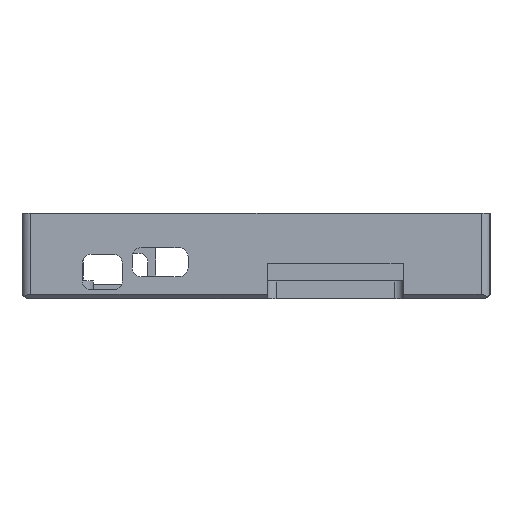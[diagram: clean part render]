
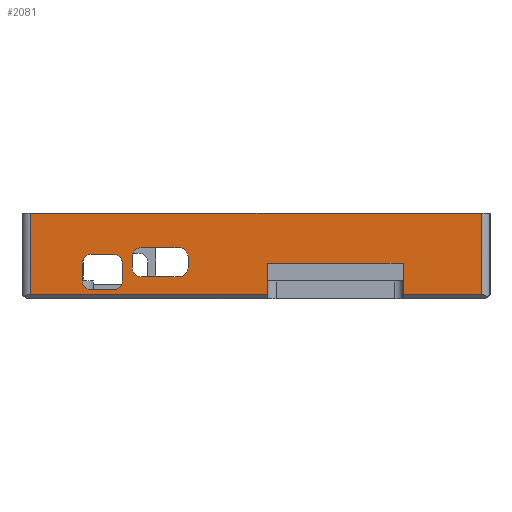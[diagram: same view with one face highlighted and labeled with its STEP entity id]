
A CAD part, left-side view. The second image highlights one B-rep face of the part: STEP entity #2081.
In plain terms, the highlighted planar face has unit normal (-1, 0, 0).
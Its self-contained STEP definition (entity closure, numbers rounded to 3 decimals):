
#633 = VERTEX_POINT('',#634);
#634 = CARTESIAN_POINT('',(-85.,37.,2.));
#640 = EDGE_CURVE('',#633,#641,#643,.T.);
#641 = VERTEX_POINT('',#642);
#642 = CARTESIAN_POINT('',(-85.,32.,2.));
#643 = LINE('',#644,#645);
#644 = CARTESIAN_POINT('',(-85.,39.,2.));
#645 = VECTOR('',#646,1.);
#646 = DIRECTION('',(0.,-1.,0.));
#1386 = VERTEX_POINT('',#1387);
#1387 = CARTESIAN_POINT('',(-85.,50.5,19.2));
#1394 = EDGE_CURVE('',#1386,#1395,#1397,.T.);
#1395 = VERTEX_POINT('',#1396);
#1396 = CARTESIAN_POINT('',(-85.,-50.5,19.2));
#1397 = LINE('',#1398,#1399);
#1398 = CARTESIAN_POINT('',(-85.,52.5,19.2));
#1399 = VECTOR('',#1400,1.);
#1400 = DIRECTION('',(0.,-1.,0.));
#2043 = EDGE_CURVE('',#2044,#641,#2046,.T.);
#2044 = VERTEX_POINT('',#2045);
#2045 = CARTESIAN_POINT('',(-85.,30.,4.));
#2046 = CIRCLE('',#2047,2.);
#2047 = AXIS2_PLACEMENT_3D('',#2048,#2049,#2050);
#2048 = CARTESIAN_POINT('',(-85.,32.,4.));
#2049 = DIRECTION('',(1.,0.,-0.));
#2050 = DIRECTION('',(0.,0.,1.));
#2081 = ADVANCED_FACE('',(#2082,#2139,#2209),#2262,.F.);
#2082 = FACE_BOUND('',#2083,.F.);
#2083 = EDGE_LOOP('',(#2084,#2094,#2100,#2101,#2109,#2117,#2125,#2133));
#2084 = ORIENTED_EDGE('',*,*,#2085,.F.);
#2085 = EDGE_CURVE('',#2086,#2088,#2090,.T.);
#2086 = VERTEX_POINT('',#2087);
#2087 = CARTESIAN_POINT('',(-85.,50.5,1.));
#2088 = VERTEX_POINT('',#2089);
#2089 = CARTESIAN_POINT('',(-85.,-2.5,1.));
#2090 = LINE('',#2091,#2092);
#2091 = CARTESIAN_POINT('',(-85.,52.5,1.));
#2092 = VECTOR('',#2093,1.);
#2093 = DIRECTION('',(0.,-1.,0.));
#2094 = ORIENTED_EDGE('',*,*,#2095,.T.);
#2095 = EDGE_CURVE('',#2086,#1386,#2096,.T.);
#2096 = LINE('',#2097,#2098);
#2097 = CARTESIAN_POINT('',(-85.,50.5,1.));
#2098 = VECTOR('',#2099,1.);
#2099 = DIRECTION('',(0.,0.,1.));
#2100 = ORIENTED_EDGE('',*,*,#1394,.T.);
#2101 = ORIENTED_EDGE('',*,*,#2102,.F.);
#2102 = EDGE_CURVE('',#2103,#1395,#2105,.T.);
#2103 = VERTEX_POINT('',#2104);
#2104 = CARTESIAN_POINT('',(-85.,-50.5,1.));
#2105 = LINE('',#2106,#2107);
#2106 = CARTESIAN_POINT('',(-85.,-50.5,1.));
#2107 = VECTOR('',#2108,1.);
#2108 = DIRECTION('',(0.,0.,1.));
#2109 = ORIENTED_EDGE('',*,*,#2110,.F.);
#2110 = EDGE_CURVE('',#2111,#2103,#2113,.T.);
#2111 = VERTEX_POINT('',#2112);
#2112 = CARTESIAN_POINT('',(-85.,-33.,1.));
#2113 = LINE('',#2114,#2115);
#2114 = CARTESIAN_POINT('',(-85.,-33.,1.));
#2115 = VECTOR('',#2116,1.);
#2116 = DIRECTION('',(0.,-1.,0.));
#2117 = ORIENTED_EDGE('',*,*,#2118,.F.);
#2118 = EDGE_CURVE('',#2119,#2111,#2121,.T.);
#2119 = VERTEX_POINT('',#2120);
#2120 = CARTESIAN_POINT('',(-85.,-33.,8.));
#2121 = LINE('',#2122,#2123);
#2122 = CARTESIAN_POINT('',(-85.,-33.,8.));
#2123 = VECTOR('',#2124,1.);
#2124 = DIRECTION('',(-0.,-0.,-1.));
#2125 = ORIENTED_EDGE('',*,*,#2126,.F.);
#2126 = EDGE_CURVE('',#2127,#2119,#2129,.T.);
#2127 = VERTEX_POINT('',#2128);
#2128 = CARTESIAN_POINT('',(-85.,-2.5,8.));
#2129 = LINE('',#2130,#2131);
#2130 = CARTESIAN_POINT('',(-85.,-2.5,8.));
#2131 = VECTOR('',#2132,1.);
#2132 = DIRECTION('',(0.,-1.,0.));
#2133 = ORIENTED_EDGE('',*,*,#2134,.T.);
#2134 = EDGE_CURVE('',#2127,#2088,#2135,.T.);
#2135 = LINE('',#2136,#2137);
#2136 = CARTESIAN_POINT('',(-85.,-2.5,8.));
#2137 = VECTOR('',#2138,1.);
#2138 = DIRECTION('',(-0.,-0.,-1.));
#2139 = FACE_BOUND('',#2140,.F.);
#2140 = EDGE_LOOP('',(#2141,#2151,#2160,#2168,#2177,#2185,#2194,#2202));
#2141 = ORIENTED_EDGE('',*,*,#2142,.T.);
#2142 = EDGE_CURVE('',#2143,#2145,#2147,.T.);
#2143 = VERTEX_POINT('',#2144);
#2144 = CARTESIAN_POINT('',(-85.,15.25,6.95));
#2145 = VERTEX_POINT('',#2146);
#2146 = CARTESIAN_POINT('',(-85.,15.25,9.45));
#2147 = LINE('',#2148,#2149);
#2148 = CARTESIAN_POINT('',(-85.,15.25,4.95));
#2149 = VECTOR('',#2150,1.);
#2150 = DIRECTION('',(0.,0.,1.));
#2151 = ORIENTED_EDGE('',*,*,#2152,.T.);
#2152 = EDGE_CURVE('',#2145,#2153,#2155,.T.);
#2153 = VERTEX_POINT('',#2154);
#2154 = CARTESIAN_POINT('',(-85.,17.25,11.45));
#2155 = CIRCLE('',#2156,2.);
#2156 = AXIS2_PLACEMENT_3D('',#2157,#2158,#2159);
#2157 = CARTESIAN_POINT('',(-85.,17.25,9.45));
#2158 = DIRECTION('',(-1.,0.,0.));
#2159 = DIRECTION('',(0.,0.,1.));
#2160 = ORIENTED_EDGE('',*,*,#2161,.T.);
#2161 = EDGE_CURVE('',#2153,#2162,#2164,.T.);
#2162 = VERTEX_POINT('',#2163);
#2163 = CARTESIAN_POINT('',(-85.,25.75,11.45));
#2164 = LINE('',#2165,#2166);
#2165 = CARTESIAN_POINT('',(-85.,15.25,11.45));
#2166 = VECTOR('',#2167,1.);
#2167 = DIRECTION('',(0.,1.,0.));
#2168 = ORIENTED_EDGE('',*,*,#2169,.T.);
#2169 = EDGE_CURVE('',#2162,#2170,#2172,.T.);
#2170 = VERTEX_POINT('',#2171);
#2171 = CARTESIAN_POINT('',(-85.,27.75,9.45));
#2172 = CIRCLE('',#2173,2.);
#2173 = AXIS2_PLACEMENT_3D('',#2174,#2175,#2176);
#2174 = CARTESIAN_POINT('',(-85.,25.75,9.45));
#2175 = DIRECTION('',(-1.,0.,0.));
#2176 = DIRECTION('',(0.,0.,1.));
#2177 = ORIENTED_EDGE('',*,*,#2178,.T.);
#2178 = EDGE_CURVE('',#2170,#2179,#2181,.T.);
#2179 = VERTEX_POINT('',#2180);
#2180 = CARTESIAN_POINT('',(-85.,27.75,6.95));
#2181 = LINE('',#2182,#2183);
#2182 = CARTESIAN_POINT('',(-85.,27.75,11.45));
#2183 = VECTOR('',#2184,1.);
#2184 = DIRECTION('',(0.,0.,-1.));
#2185 = ORIENTED_EDGE('',*,*,#2186,.F.);
#2186 = EDGE_CURVE('',#2187,#2179,#2189,.T.);
#2187 = VERTEX_POINT('',#2188);
#2188 = CARTESIAN_POINT('',(-85.,25.75,4.95));
#2189 = CIRCLE('',#2190,2.);
#2190 = AXIS2_PLACEMENT_3D('',#2191,#2192,#2193);
#2191 = CARTESIAN_POINT('',(-85.,25.75,6.95));
#2192 = DIRECTION('',(1.,0.,-0.));
#2193 = DIRECTION('',(0.,0.,1.));
#2194 = ORIENTED_EDGE('',*,*,#2195,.T.);
#2195 = EDGE_CURVE('',#2187,#2196,#2198,.T.);
#2196 = VERTEX_POINT('',#2197);
#2197 = CARTESIAN_POINT('',(-85.,17.25,4.95));
#2198 = LINE('',#2199,#2200);
#2199 = CARTESIAN_POINT('',(-85.,27.75,4.95));
#2200 = VECTOR('',#2201,1.);
#2201 = DIRECTION('',(0.,-1.,0.));
#2202 = ORIENTED_EDGE('',*,*,#2203,.F.);
#2203 = EDGE_CURVE('',#2143,#2196,#2204,.T.);
#2204 = CIRCLE('',#2205,2.);
#2205 = AXIS2_PLACEMENT_3D('',#2206,#2207,#2208);
#2206 = CARTESIAN_POINT('',(-85.,17.25,6.95));
#2207 = DIRECTION('',(1.,0.,-0.));
#2208 = DIRECTION('',(0.,0.,1.));
#2209 = FACE_BOUND('',#2210,.F.);
#2210 = EDGE_LOOP('',(#2211,#2219,#2228,#2236,#2245,#2253,#2260,#2261));
#2211 = ORIENTED_EDGE('',*,*,#2212,.T.);
#2212 = EDGE_CURVE('',#2044,#2213,#2215,.T.);
#2213 = VERTEX_POINT('',#2214);
#2214 = CARTESIAN_POINT('',(-85.,30.,8.));
#2215 = LINE('',#2216,#2217);
#2216 = CARTESIAN_POINT('',(-85.,30.,2.));
#2217 = VECTOR('',#2218,1.);
#2218 = DIRECTION('',(0.,0.,1.));
#2219 = ORIENTED_EDGE('',*,*,#2220,.T.);
#2220 = EDGE_CURVE('',#2213,#2221,#2223,.T.);
#2221 = VERTEX_POINT('',#2222);
#2222 = CARTESIAN_POINT('',(-85.,32.,10.));
#2223 = CIRCLE('',#2224,2.);
#2224 = AXIS2_PLACEMENT_3D('',#2225,#2226,#2227);
#2225 = CARTESIAN_POINT('',(-85.,32.,8.));
#2226 = DIRECTION('',(-1.,0.,0.));
#2227 = DIRECTION('',(0.,0.,1.));
#2228 = ORIENTED_EDGE('',*,*,#2229,.T.);
#2229 = EDGE_CURVE('',#2221,#2230,#2232,.T.);
#2230 = VERTEX_POINT('',#2231);
#2231 = CARTESIAN_POINT('',(-85.,37.,10.));
#2232 = LINE('',#2233,#2234);
#2233 = CARTESIAN_POINT('',(-85.,30.,10.));
#2234 = VECTOR('',#2235,1.);
#2235 = DIRECTION('',(0.,1.,0.));
#2236 = ORIENTED_EDGE('',*,*,#2237,.T.);
#2237 = EDGE_CURVE('',#2230,#2238,#2240,.T.);
#2238 = VERTEX_POINT('',#2239);
#2239 = CARTESIAN_POINT('',(-85.,39.,8.));
#2240 = CIRCLE('',#2241,2.);
#2241 = AXIS2_PLACEMENT_3D('',#2242,#2243,#2244);
#2242 = CARTESIAN_POINT('',(-85.,37.,8.));
#2243 = DIRECTION('',(-1.,0.,0.));
#2244 = DIRECTION('',(0.,0.,1.));
#2245 = ORIENTED_EDGE('',*,*,#2246,.T.);
#2246 = EDGE_CURVE('',#2238,#2247,#2249,.T.);
#2247 = VERTEX_POINT('',#2248);
#2248 = CARTESIAN_POINT('',(-85.,39.,4.));
#2249 = LINE('',#2250,#2251);
#2250 = CARTESIAN_POINT('',(-85.,39.,10.));
#2251 = VECTOR('',#2252,1.);
#2252 = DIRECTION('',(0.,0.,-1.));
#2253 = ORIENTED_EDGE('',*,*,#2254,.F.);
#2254 = EDGE_CURVE('',#633,#2247,#2255,.T.);
#2255 = CIRCLE('',#2256,2.);
#2256 = AXIS2_PLACEMENT_3D('',#2257,#2258,#2259);
#2257 = CARTESIAN_POINT('',(-85.,37.,4.));
#2258 = DIRECTION('',(1.,0.,-0.));
#2259 = DIRECTION('',(0.,0.,1.));
#2260 = ORIENTED_EDGE('',*,*,#640,.T.);
#2261 = ORIENTED_EDGE('',*,*,#2043,.F.);
#2262 = PLANE('',#2263);
#2263 = AXIS2_PLACEMENT_3D('',#2264,#2265,#2266);
#2264 = CARTESIAN_POINT('',(-85.,52.5,0.));
#2265 = DIRECTION('',(1.,0.,0.));
#2266 = DIRECTION('',(0.,-1.,0.));
